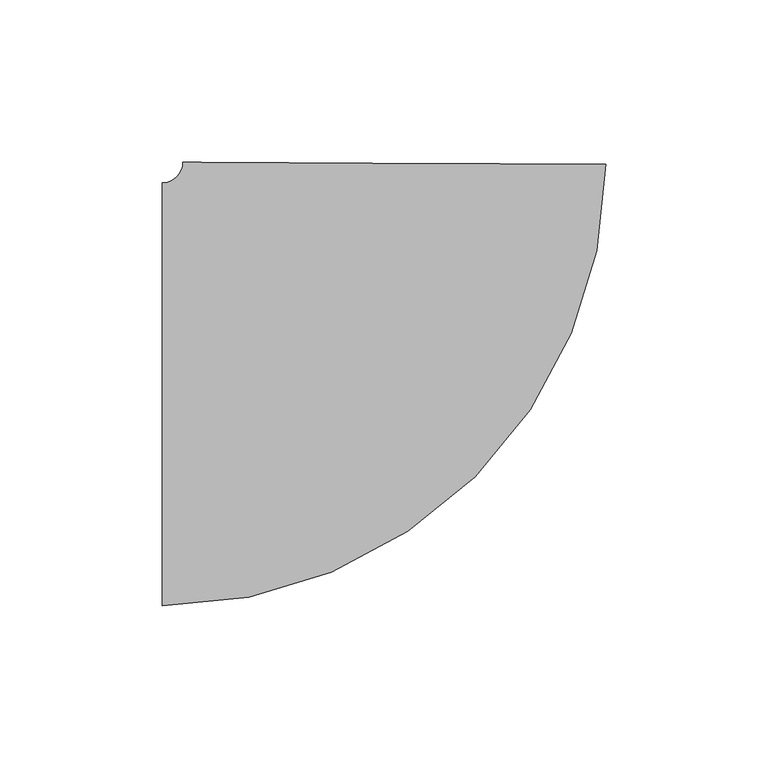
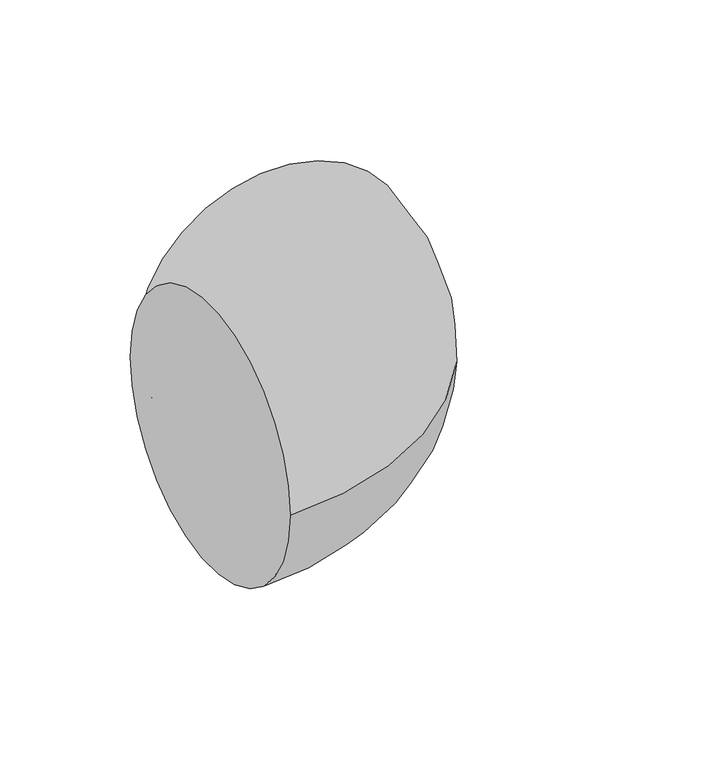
"""IFC4 building model written with IfcOpenShell, lengths in millimetres: pipe fitting geometry, M_Codo - Genérico : Estándar."""

from ifc_helpers import new_model, si_unit, point, frame, origin, place, context, project, spatial, circle_curve, ellipse_curve, trimmed, source, transform, mapped, element, save
from ifc_brep_helpers import plane_surface, revolved_surface, advanced_brep


def pipe_fitting_472952b9(model_context):
    return source(origin(), model_context, "Body", "AdvancedBrep", [
        advanced_brep(
        [(-71.0838635, -65.0875, 0.0), (-71.0838635, 65.0875, 0.0), (65.4394554, 70.7599885, 0.0), (-64.7339416, 71.4059878, 0.0)],
        [
            (0, 1, circle_curve(frame((-71.0838635, 0.0, 0.0), z_axis=(-1.0, 0.0, 0.0), x_axis=(0.0, 1.0, 0.0)), 65.0875)),
            (1, 0, circle_curve(frame((-71.0838635, 0.0, 0.0), z_axis=(-1.0, 0.0, 0.0), x_axis=(0.0, 1.0, 0.0)), 65.0875)),
            (2, 3, circle_curve(frame((0.3527569, 71.0829882, 0.0), z_axis=(0.004962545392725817, 0.9999876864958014, 0.0), x_axis=(-0.9999876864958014, 0.004962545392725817, 0.0)), 65.0875)),
            (3, 2, circle_curve(frame((0.3527569, 71.0829882, 0.0), z_axis=(0.004962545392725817, 0.9999876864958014, 0.0), x_axis=(-0.9999876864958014, 0.004962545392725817, 0.0)), 65.0875)),
            (3, 1, circle_curve(frame((-71.0838635, 71.4375, 0.0), z_axis=(0.0, 0.0, -1.0), x_axis=(0.0, -1.0, 0.0)), 6.35)),
            (0, 2, circle_curve(frame((-71.0838635, 71.4375, 0.0), z_axis=(0.0, 0.0, 1.0), x_axis=(0.0, -1.0, 0.0)), 136.525)),
        ],
        [
            plane_surface(frame((-71.0838635, 0.0, 0.0), z_axis=(-1.0, 0.0, 0.0), x_axis=(0.0, 0.0, 1.0))),
            plane_surface(frame((0.3527569, 71.0829882, 0.0), z_axis=(0.004962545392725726, 0.9999876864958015, 0.0), x_axis=(0.0, 0.0, 1.0))),
            revolved_surface(trimmed(ellipse_curve(frame((-71.0838635, 0.0, 0.0), z_axis=(-1.0, 0.0, 0.0), x_axis=(0.0, 1.0, 0.0)), 65.0875, 65.0875), [point((-71.0838635, -65.0875, 0.0))], [point((-71.0838635, 65.0875, 0.0))], True, "CARTESIAN"), (-71.0838635, 71.4375, 0.0), (0.0, 0.0, 1.0)),
            revolved_surface(trimmed(ellipse_curve(frame((-71.0838635, 0.0, 0.0), z_axis=(-1.0, 0.0, 0.0), x_axis=(0.0, 1.0, 0.0)), 65.0875, 65.0875), [point((-71.0838635, 65.0875, 0.0))], [point((-71.0838635, -65.0875, 0.0))], True, "CARTESIAN"), (-71.0838635, 71.4375, 0.0), (0.0, 0.0, 1.0)),
        ],
        [
            (0, [[1, 2]]),
            (1, [[3, 4]]),
            (2, [[5, -1, 6, -4]]),
            (3, [[-6, -2, -5, -3]]),
        ],
    ),
    ])


if __name__ == "__main__":
    model = new_model("IFC4")
    model_context = context("Model", 3, world=origin())
    ifc_project = project(units=[si_unit("LENGTHUNIT", "METRE", prefix="MILLI")], contexts=[model_context])
    site = spatial("IfcSite", under=ifc_project)
    building = spatial("IfcBuilding", under=site)
    placement = place(None, origin())
    pipe_fitting_shape = pipe_fitting_472952b9(model_context)
    element("IfcPipeFitting", 1, ObjectType="M_Codo - Genérico : Estándar", at=placement, inside=building, context=model_context, shape_type="MappedRepresentation", body=[
        mapped(pipe_fitting_shape, transform((0.0, 0.0, 0.0), x_axis=(1.0, 0.0, 0.0), y_axis=(0.0, 1.0, 0.0), z_axis=(0.0, 0.0, 1.0))),
    ])
    save(model, "model.ifc")
